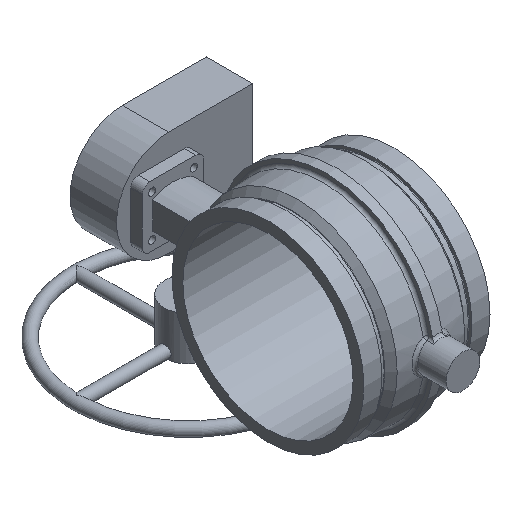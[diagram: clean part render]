
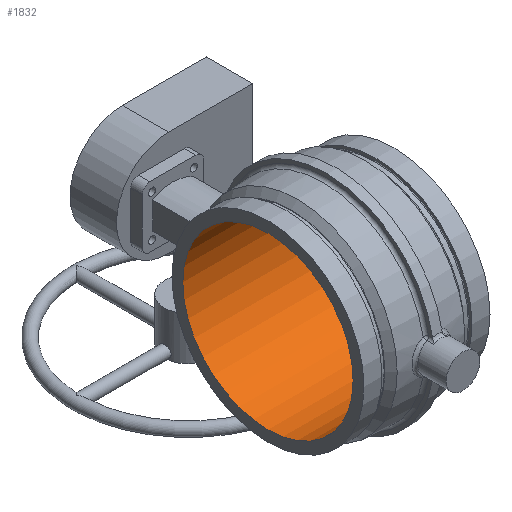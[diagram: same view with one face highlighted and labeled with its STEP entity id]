
A CAD part, isometric view. The second image highlights one B-rep face of the part: STEP entity #1832.
In plain terms, the highlighted cylindrical face has radius 180.213 mm (diameter 360.426 mm), a full revolution.
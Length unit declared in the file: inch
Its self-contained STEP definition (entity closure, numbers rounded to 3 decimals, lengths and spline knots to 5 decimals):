
#170=CIRCLE('',#2047,7.095);
#171=CIRCLE('',#2048,7.095);
#172=CIRCLE('',#2050,7.095);
#173=CIRCLE('',#2051,7.095);
#299=FACE_OUTER_BOUND('',#406,.T.);
#406=EDGE_LOOP('',(#1574,#1575,#1576,#1577,#1578,#1579));
#478=LINE('',#4075,#547);
#547=VECTOR('',#2519,7.095);
#802=VERTEX_POINT('',#4069);
#803=VERTEX_POINT('',#4070);
#804=VERTEX_POINT('',#4074);
#805=VERTEX_POINT('',#4076);
#1064=EDGE_CURVE('',#802,#803,#170,.T.);
#1065=EDGE_CURVE('',#803,#802,#171,.T.);
#1066=EDGE_CURVE('',#803,#804,#478,.T.);
#1067=EDGE_CURVE('',#805,#804,#172,.T.);
#1068=EDGE_CURVE('',#804,#805,#173,.T.);
#1574=ORIENTED_EDGE('',*,*,#1064,.T.);
#1575=ORIENTED_EDGE('',*,*,#1066,.T.);
#1576=ORIENTED_EDGE('',*,*,#1067,.F.);
#1577=ORIENTED_EDGE('',*,*,#1068,.F.);
#1578=ORIENTED_EDGE('',*,*,#1066,.F.);
#1579=ORIENTED_EDGE('',*,*,#1065,.T.);
#1643=CYLINDRICAL_SURFACE('',#2049,7.095);
#1832=ADVANCED_FACE('',(#299),#1643,.F.);
#2047=AXIS2_PLACEMENT_3D('',#4071,#2513,#2514);
#2048=AXIS2_PLACEMENT_3D('',#4072,#2515,#2516);
#2049=AXIS2_PLACEMENT_3D('',#4073,#2517,#2518);
#2050=AXIS2_PLACEMENT_3D('',#4077,#2520,#2521);
#2051=AXIS2_PLACEMENT_3D('',#4078,#2522,#2523);
#2513=DIRECTION('center_axis',(1.,0.,0.));
#2514=DIRECTION('ref_axis',(0.,1.,0.));
#2515=DIRECTION('center_axis',(1.,0.,0.));
#2516=DIRECTION('ref_axis',(0.,1.,0.));
#2517=DIRECTION('center_axis',(1.,0.,0.));
#2518=DIRECTION('ref_axis',(0.,1.,0.));
#2519=DIRECTION('',(-1.,0.,0.));
#2520=DIRECTION('center_axis',(1.,0.,0.));
#2521=DIRECTION('ref_axis',(0.,1.,0.));
#2522=DIRECTION('center_axis',(1.,0.,0.));
#2523=DIRECTION('ref_axis',(0.,1.,0.));
#4069=CARTESIAN_POINT('',(5.25,7.095,0.));
#4070=CARTESIAN_POINT('',(5.25,-7.095,0.));
#4071=CARTESIAN_POINT('Origin',(5.25,0.,0.));
#4072=CARTESIAN_POINT('Origin',(5.25,0.,0.));
#4073=CARTESIAN_POINT('Origin',(0.,0.,0.));
#4074=CARTESIAN_POINT('',(-5.25,-7.095,0.));
#4075=CARTESIAN_POINT('',(0.,-7.095,0.));
#4076=CARTESIAN_POINT('',(-5.25,7.095,0.));
#4077=CARTESIAN_POINT('Origin',(-5.25,0.,0.));
#4078=CARTESIAN_POINT('Origin',(-5.25,0.,0.));
